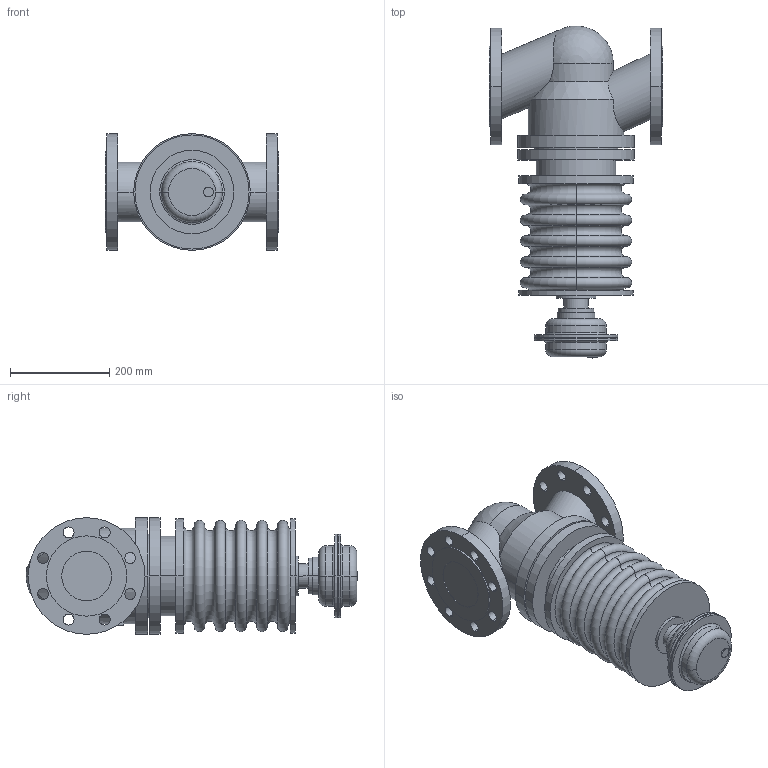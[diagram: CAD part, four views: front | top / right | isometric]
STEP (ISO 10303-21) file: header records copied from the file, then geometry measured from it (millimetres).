
FILE_DESCRIPTION(('OneSpaceDesigner STEP Export'),'2;1');
FILE_NAME('c000004070.stp','2010-02-11T 8:21:50',(''),(''),'OneSpace Designer STEP processor for AP214 (Solid Model)','OneSpace Modeling 15.50B 03-Nov-2007 (C) CoCreate Software GmbH','');
FILE_SCHEMA(('AUTOMOTIVE_DESIGN { 1 0 10303 214 1 1 1 1 }'));
Length unit declared in the file: millimetre
Products named in the file (2): 1; 2
Bounding box: 350 x 669.15 x 235 mm (x, y, z)
Volume: 20117603.1 mm3; surface area: 892784.7 mm2
Topology: 2 solids, 2 shells, 160 faces, 373 edges, 240 vertices
Faces by surface type: cylinder 84, plane 42, torus 30, cone 2, sphere 2
Entity records: 5503 total; most frequent: CARTESIAN_POINT 916, ORIENTED_EDGE 742, DIRECTION 591, EDGE_CURVE 371, VERTEX_POINT 240, AXIS2_PLACEMENT_3D 237, EDGE_LOOP 217, COLOUR_RGB 162
